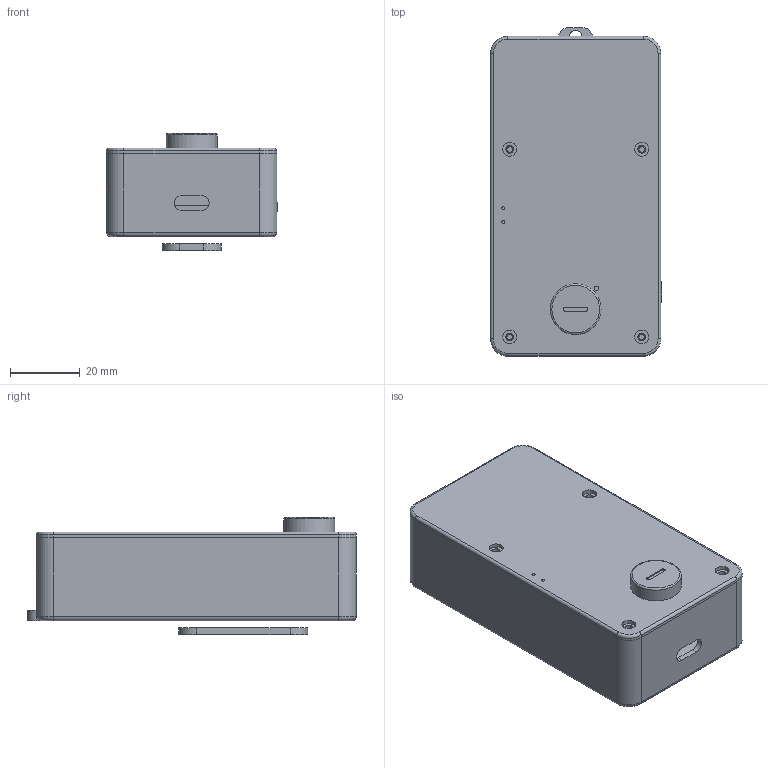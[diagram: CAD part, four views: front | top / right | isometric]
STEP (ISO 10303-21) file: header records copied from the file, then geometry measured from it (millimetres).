
FILE_DESCRIPTION(('Open CASCADE Model'),'2;1');
FILE_NAME('Open CASCADE Shape Model','2026-09-08T13:54:09',('Author'),( 'Open CASCADE'),'Open CASCADE STEP processor 7.9','Open CASCADE 7.9' ,'Unknown');
FILE_SCHEMA(('AUTOMOTIVE_DESIGN { 1 0 10303 214 1 1 1 1 }'));
Length unit declared in the file: millimetre
Products named in the file (1): COMPOUND
Bounding box: 49.2 x 94.5 x 33.7 mm (x, y, z)
Volume: 33285 mm3; surface area: 44581.4 mm2
Topology: 9 solids, 9 shells, 394 faces, 985 edges, 650 vertices
Faces by surface type: plane 211, cylinder 171, torus 9, bspline 3
Full cylindrical faces by diameter (mm): 0.9 x4, 1 x45, 1.3 x1, 1.4 x4, 1.6 x6, 1.8 x2, 2.2 x6, 2.4 x2, 3.6 x4, 4 x6, 4.6 x4, 6.3 x4, 9 x1, 11 x2, 11.5 x1, 14.6 x1
Entity records: 28478 total; most frequent: CARTESIAN_POINT 8529, DIRECTION 3669, ORIENTED_EDGE 1970, PCURVE 1970, DEFINITIONAL_REPRESENTATION 1970, LINE 1877, VECTOR 1877, EDGE_CURVE 985
